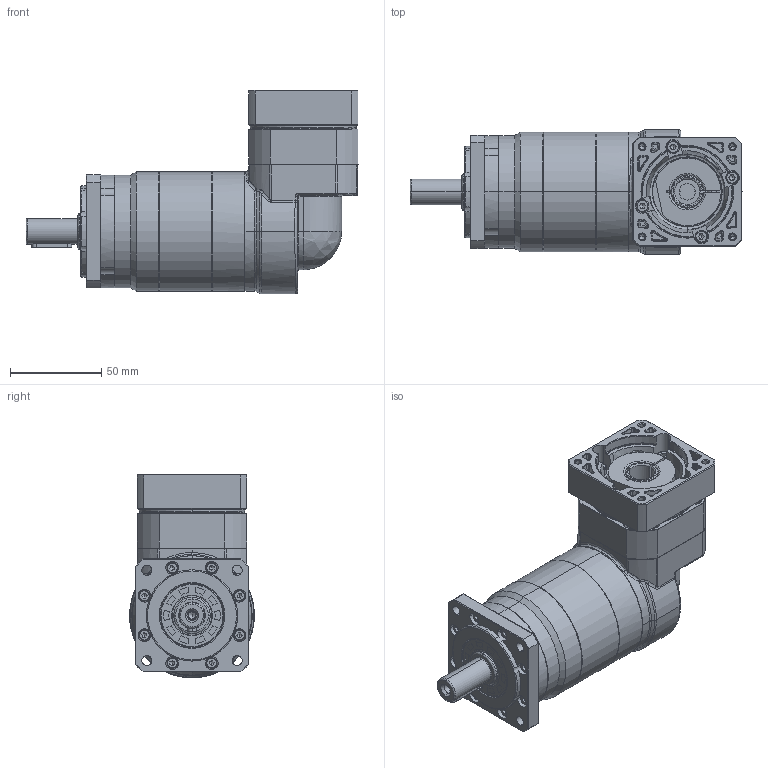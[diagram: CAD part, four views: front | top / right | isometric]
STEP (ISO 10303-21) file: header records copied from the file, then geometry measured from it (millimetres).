
FILE_DESCRIPTION (( 'STEP AP214' ), '1' );
FILE_NAME ('EVT060-L2-S2-P1 14-50-70-M4-33.STEP', '2025-02-15T07:16:29', ( '微软用户' ), ( '微软中国' ), 'SwSTEP 2.0', 'SolidWorks 2021', '' );
FILE_SCHEMA (( 'AUTOMOTIVE_DESIGN' ));
Length unit declared in the file: millimetre
Products named in the file (4): 3.EVT064F_________step_stp_stp.stp.STEP; EVT060D-L2-8-38.1-66.7-M4-33.STEP; EVT060-L2-S2-P1 14-50-70-M4-33; FBR060D-L2-14-50-70-M4-33.STEP
Assembly tree (7 placements, depth 2):
  EVT060-L2-S2-P1 14-50-70-M4-33
    FBR060D-L2-14-50-70-M4-33.STEP
    3.EVT064F_________step_stp_stp.stp.STEP
    EVT060D-L2-8-38.1-66.7-M4-33.STEP  x5
Bounding box: 182 x 68.5 x 111.75 mm (x, y, z)
Volume: 92087 mm3; surface area: 134297.3 mm2
Topology: 1 solids, 45 shells, 1759 faces, 4382 edges, 2721 vertices
Faces by surface type: cylinder 554, plane 502, bspline 387, cone 305, torus 11
Entity records: 79875 total; most frequent: CARTESIAN_POINT 44487, ORIENTED_EDGE 7846, DIRECTION 6482, EDGE_CURVE 3956, AXIS2_PLACEMENT_3D 2573, VERTEX_POINT 2497, EDGE_LOOP 1808, FACE_OUTER_BOUND 1627
